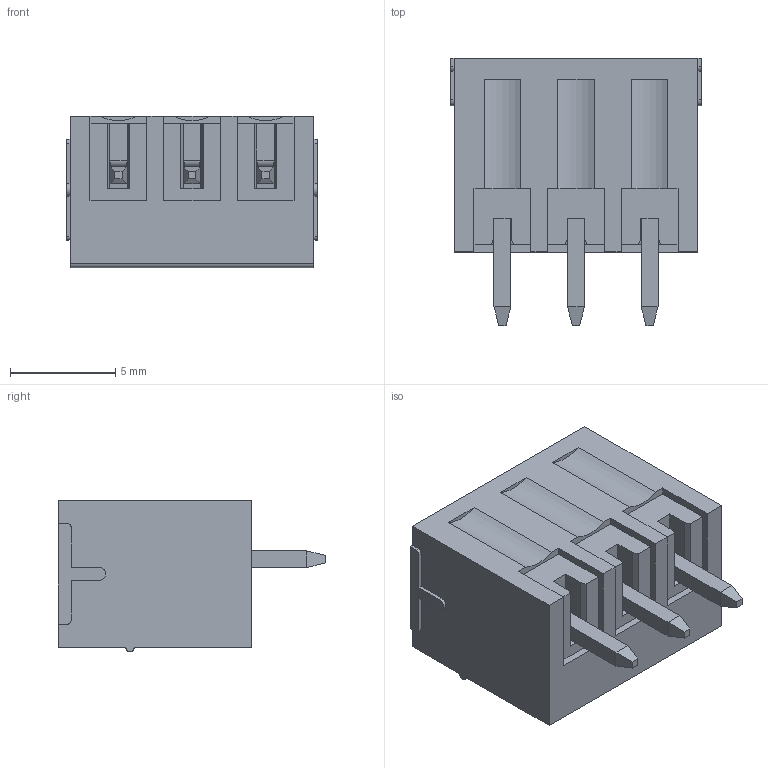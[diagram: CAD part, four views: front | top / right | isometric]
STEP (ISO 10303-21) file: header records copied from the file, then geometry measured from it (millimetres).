
FILE_DESCRIPTION((''),'2;1');
FILE_NAME('OQ0212500000G','2021-02-23T',('renkang.li'),(''),'CREO PARAMETRIC BY PTC INC, 2016260','CREO PARAMETRIC BY PTC INC, 2016260','');
FILE_SCHEMA(('CONFIG_CONTROL_DESIGN'));
Length unit declared in the file: millimetre
Products named in the file (1): OQ0212500000G
Bounding box: 11.9 x 12.7 x 7.2 mm (x, y, z)
Volume: 376.9 mm3; surface area: 1165.4 mm2
Topology: 1 solids, 1 shells, 244 faces, 675 edges, 442 vertices
Faces by surface type: plane 201, cylinder 31, cone 6, torus 6
Entity records: 7744 total; most frequent: CARTESIAN_POINT 1406, ORIENTED_EDGE 1350, DIRECTION 1245, EDGE_CURVE 675, VECTOR 577, LINE 577, VERTEX_POINT 442, AXIS2_PLACEMENT_3D 334
